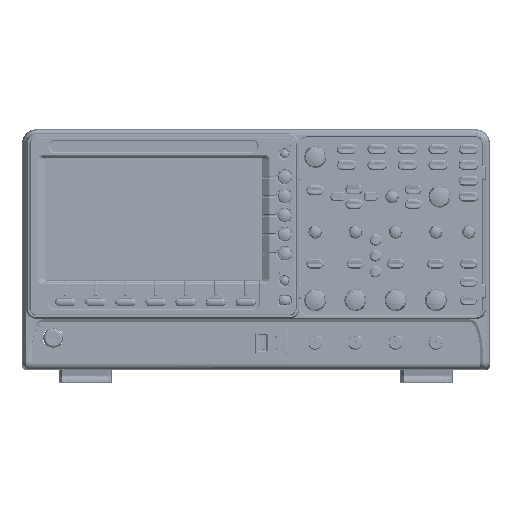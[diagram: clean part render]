
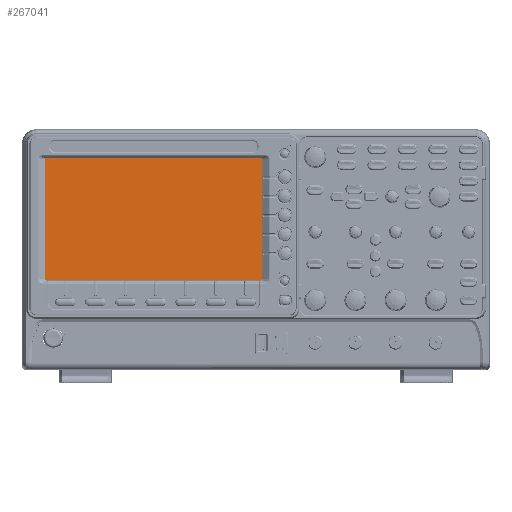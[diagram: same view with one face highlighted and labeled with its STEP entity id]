
A CAD part, top view. The second image highlights one B-rep face of the part: STEP entity #267041.
In plain terms, the highlighted planar face has unit normal (0, 0, 1).
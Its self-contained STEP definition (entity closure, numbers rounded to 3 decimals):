
#266926=DIRECTION('',(0.,1.,0.));
#266927=VECTOR('',#266926,110.);
#266928=CARTESIAN_POINT('',(-90.,-41.,1.));
#266929=LINE('',#266928,#266927);
#266930=DIRECTION('',(1.,0.,0.));
#266931=VECTOR('',#266930,190.);
#266932=CARTESIAN_POINT('',(-90.,69.,1.));
#266933=LINE('',#266932,#266931);
#266934=DIRECTION('',(0.,-1.,0.));
#266935=VECTOR('',#266934,110.);
#266936=CARTESIAN_POINT('',(100.,69.,1.));
#266937=LINE('',#266936,#266935);
#266938=DIRECTION('',(-1.,0.,0.));
#266939=VECTOR('',#266938,190.);
#266940=CARTESIAN_POINT('',(100.,-41.,1.));
#266941=LINE('',#266940,#266939);
#266950=CARTESIAN_POINT('',(-90.,69.,1.));
#266951=VERTEX_POINT('',#266950);
#266952=CARTESIAN_POINT('',(-90.,-41.,1.));
#266953=VERTEX_POINT('',#266952);
#266954=CARTESIAN_POINT('',(100.,69.,1.));
#266955=VERTEX_POINT('',#266954);
#266956=CARTESIAN_POINT('',(100.,-41.,1.));
#266957=VERTEX_POINT('',#266956);
#267030=CARTESIAN_POINT('',(0.,0.,1.));
#267031=DIRECTION('',(0.,0.,1.));
#267032=DIRECTION('',(1.,0.,0.));
#267033=AXIS2_PLACEMENT_3D('',#267030,#267031,#267032);
#267034=PLANE('',#267033);
#267035=ORIENTED_EDGE('',*,*,#266982,.T.);
#267036=ORIENTED_EDGE('',*,*,#266997,.T.);
#267037=ORIENTED_EDGE('',*,*,#267011,.T.);
#267038=ORIENTED_EDGE('',*,*,#267024,.T.);
#267039=EDGE_LOOP('',(#267035,#267036,#267037,#267038));
#267040=FACE_OUTER_BOUND('',#267039,.F.);
#267041=ADVANCED_FACE('',(#267040),#267034,.T.);
#266982=EDGE_CURVE('',#266953,#266951,#266929,.T.);
#266997=EDGE_CURVE('',#266951,#266955,#266933,.T.);
#267011=EDGE_CURVE('',#266955,#266957,#266937,.T.);
#267024=EDGE_CURVE('',#266957,#266953,#266941,.T.);
